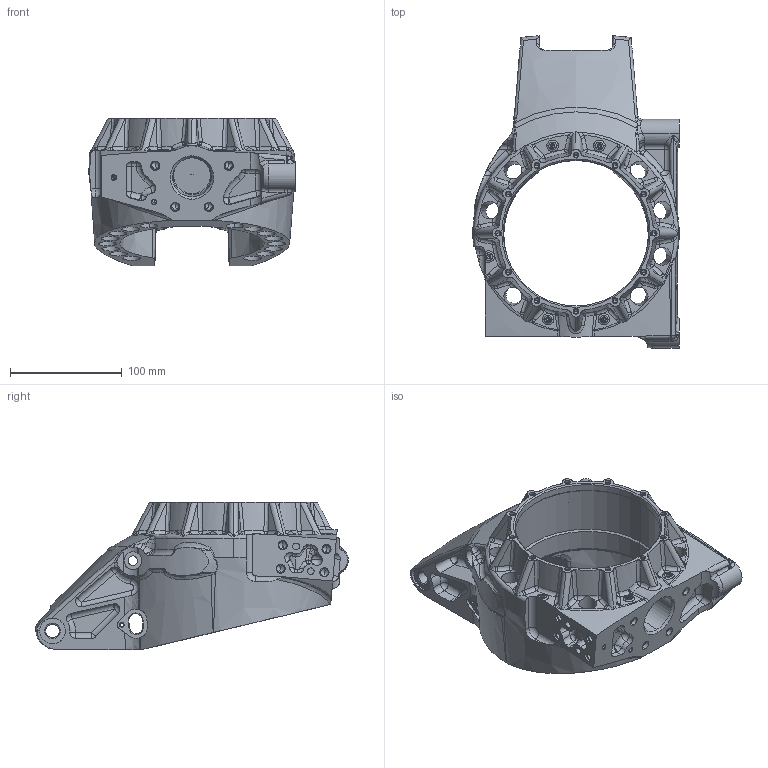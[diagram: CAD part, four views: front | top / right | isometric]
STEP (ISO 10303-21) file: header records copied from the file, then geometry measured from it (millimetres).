
FILE_DESCRIPTION (( 'STEP AP214' ), '1' );
FILE_NAME ('Mini WRC Wheel Hub V1_2_origin.STEP', '2025-01-26T09:16:17', ( '' ), ( '' ), 'SwSTEP 2.0', 'SolidWorks 2024', '' );
FILE_SCHEMA (( 'AUTOMOTIVE_DESIGN' ));
Length unit declared in the file: millimetre
Products named in the file (1): Mini WRC Wheel Hub V1_2_origin
Bounding box: 185 x 280.02 x 132.5 mm (x, y, z)
Volume: 1094308.5 mm3; surface area: 266053.3 mm2
Topology: 1 solids, 1 shells, 1110 faces, 2755 edges, 1547 vertices
Faces by surface type: cylinder 333, bspline 282, cone 191, plane 138, torus 84, sphere 82
Entity records: 51572 total; most frequent: CARTESIAN_POINT 28534, ORIENTED_EDGE 5204, DIRECTION 4365, EDGE_CURVE 2602, AXIS2_PLACEMENT_3D 1851, VERTEX_POINT 1546, EDGE_LOOP 1196, ADVANCED_FACE 1110
